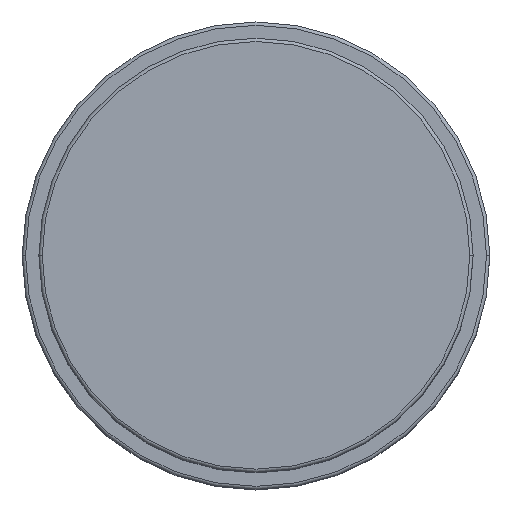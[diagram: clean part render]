
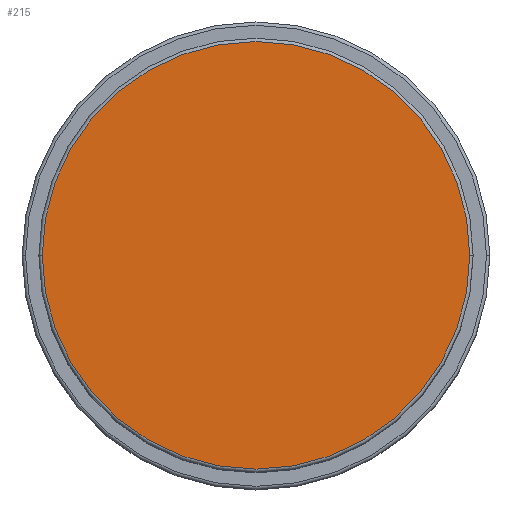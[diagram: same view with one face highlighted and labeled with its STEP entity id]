
A CAD part, top view. The second image highlights one B-rep face of the part: STEP entity #215.
In plain terms, the highlighted planar face has unit normal (0, 0, 1).
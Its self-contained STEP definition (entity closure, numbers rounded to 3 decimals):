
#215 = ADVANCED_FACE ( 'NONE', ( #1864 ), #810, .T. ) ;
#400 = ORIENTED_EDGE ( 'NONE', *, *, #476, .T. ) ;
#402 = AXIS2_PLACEMENT_3D ( 'NONE', #1774, #655, #1912 ) ;
#428 = EDGE_LOOP ( 'NONE', ( #400, #1674 ) ) ;
#476 = EDGE_CURVE ( 'NONE', #811, #1452, #1336, .T. ) ;
#565 = AXIS2_PLACEMENT_3D ( 'NONE', #1087, #737, #589 ) ;
#589 = DIRECTION ( 'NONE',  ( 1., 0., 0. ) ) ;
#655 = DIRECTION ( 'NONE',  ( 0., 0., 1. ) ) ;
#737 = DIRECTION ( 'NONE',  ( 0., 0., 1. ) ) ;
#810 = PLANE ( 'NONE',  #402 ) ;
#811 = VERTEX_POINT ( 'NONE', #895 ) ;
#895 = CARTESIAN_POINT ( 'NONE',  ( 32., 0., 72. ) ) ;
#918 = CARTESIAN_POINT ( 'NONE',  ( -32., 0., 72. ) ) ;
#1037 = DIRECTION ( 'NONE',  ( 0., 0., 1. ) ) ;
#1087 = CARTESIAN_POINT ( 'NONE',  ( 0., 0., 72. ) ) ;
#1336 = CIRCLE ( 'NONE', #1478, 32. ) ;
#1364 = EDGE_CURVE ( 'NONE', #1452, #811, #1675, .T. ) ;
#1452 = VERTEX_POINT ( 'NONE', #918 ) ;
#1478 = AXIS2_PLACEMENT_3D ( 'NONE', #1671, #1037, #1527 ) ;
#1527 = DIRECTION ( 'NONE',  ( 1., 0., 0. ) ) ;
#1671 = CARTESIAN_POINT ( 'NONE',  ( 0., 0., 72. ) ) ;
#1674 = ORIENTED_EDGE ( 'NONE', *, *, #1364, .T. ) ;
#1675 = CIRCLE ( 'NONE', #565, 32. ) ;
#1774 = CARTESIAN_POINT ( 'NONE',  ( 0., 0., 72. ) ) ;
#1864 = FACE_OUTER_BOUND ( 'NONE', #428, .T. ) ;
#1912 = DIRECTION ( 'NONE',  ( 1., 0., 0. ) ) ;
